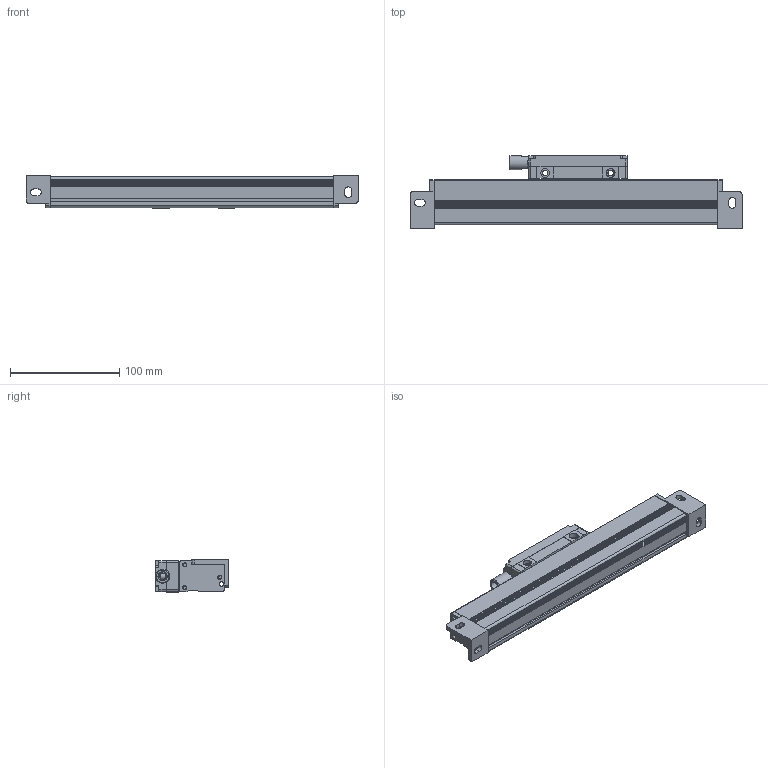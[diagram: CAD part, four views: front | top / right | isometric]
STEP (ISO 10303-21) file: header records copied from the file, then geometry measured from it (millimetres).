
FILE_DESCRIPTION (( 'STEP AP214' ), '1' );
FILE_NAME ('JCXE-L-0150.STEP', '2021-12-16T03:03:53', ( '微软用户' ), ( '微软中国' ), 'SwSTEP 2.0', 'SolidWorks 2010', '' );
FILE_SCHEMA (( 'AUTOMOTIVE_DESIGN' ));
Length unit declared in the file: millimetre
Products named in the file (7): MSBR-5_1-1; PRT0002; MSBR-4_1-1; MSBR-3_1-1; MSBR-2_1-1; 嫖掑喜旯L1200; JCXE-L-0150
Assembly tree (6 placements, depth 2):
  JCXE-L-0150
    MSBR-3_1-1
    嫖掑喜旯L1200
    PRT0002
    MSBR-2_1-1
    MSBR-5_1-1
    MSBR-4_1-1
Bounding box: 304 x 66.8 x 29.5 mm (x, y, z)
Volume: 163714.8 mm3; surface area: 115420.4 mm2
Topology: 6 solids, 6 shells, 547 faces, 1493 edges, 984 vertices
Faces by surface type: plane 331, cylinder 161, cone 27, bspline 25, sphere 3
Entity records: 18988 total; most frequent: CARTESIAN_POINT 4706, ORIENTED_EDGE 2978, DIRECTION 2838, EDGE_CURVE 1489, VECTOR 1018, LINE 1018, VERTEX_POINT 982, AXIS2_PLACEMENT_3D 910
